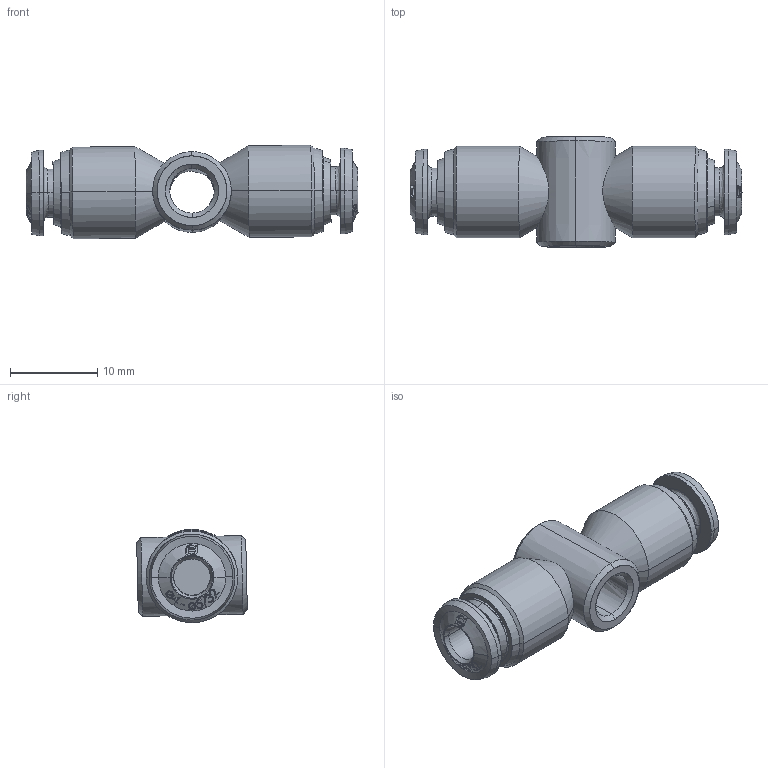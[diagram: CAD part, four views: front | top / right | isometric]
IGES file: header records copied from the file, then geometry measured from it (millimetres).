
Start section: SolidWorks IGES file using analytic representation for surfaces
Global section: file name: K:\Disegni Esecutivi\Serie 50000\ASSIEMI\50510\ASSIEMI_PIENI_50510\5051000001.IGS; native system: SolidWorks 2007; preprocessor: SolidWorks 2007; author: cad02; date: 071011.162541; units: millimetre
Bounding box: 38.04 x 12.68 x 10.71 mm (x, y, z)
Surface area: 2185.1 mm2 (no closed solid volume)
Topology: 0 solids, 0 shells, 388 faces, 4136 edges, 4132 vertices
Faces by surface type: bspline 258, revolution 130
